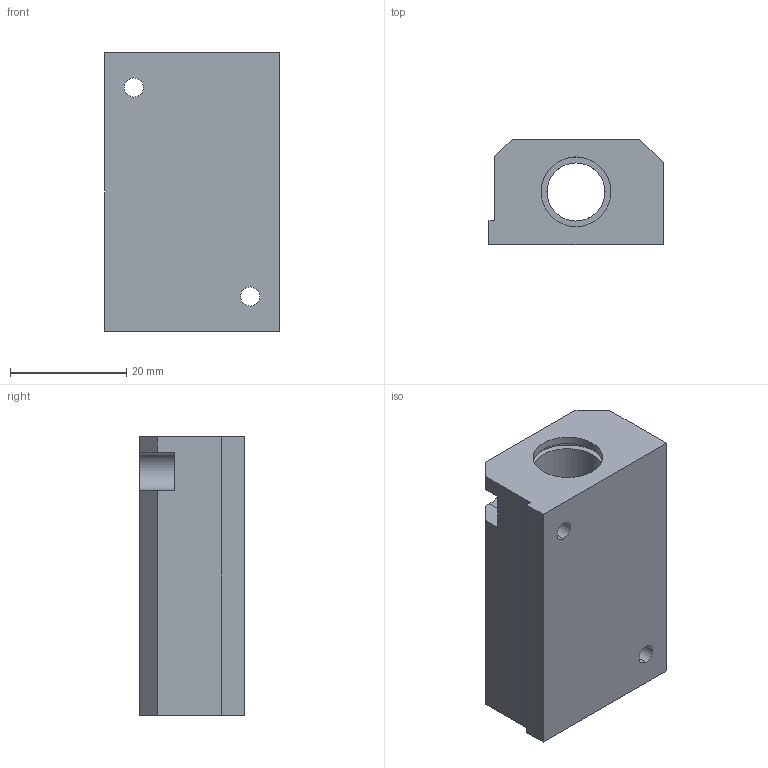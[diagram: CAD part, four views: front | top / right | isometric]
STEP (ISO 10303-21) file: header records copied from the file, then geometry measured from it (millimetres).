
FILE_DESCRIPTION (( 'STEP AP214' ), '1' );
FILE_NAME ('KTG85-06.step', '2020-03-04T13:24:48', ( '' ), ( '' ), 'SwSTEP 2.0', 'SolidWorks 2019', '' );
FILE_SCHEMA (( 'AUTOMOTIVE_DESIGN' ));
Length unit declared in the file: millimetre
Products named in the file (1): KTG85-06
Bounding box: 30 x 18 x 48 mm (x, y, z)
Volume: 18422.3 mm3; surface area: 7765.4 mm2
Topology: 1 solids, 1 shells, 52 faces, 131 edges, 85 vertices
Faces by surface type: cylinder 24, plane 24, cone 4
Entity records: 1740 total; most frequent: CARTESIAN_POINT 347, DIRECTION 276, ORIENTED_EDGE 258, EDGE_CURVE 129, AXIS2_PLACEMENT_3D 100, VERTEX_POINT 85, VECTOR 76, LINE 76
